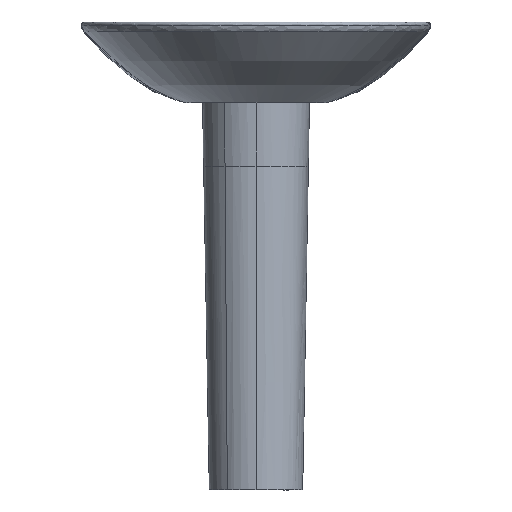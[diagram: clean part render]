
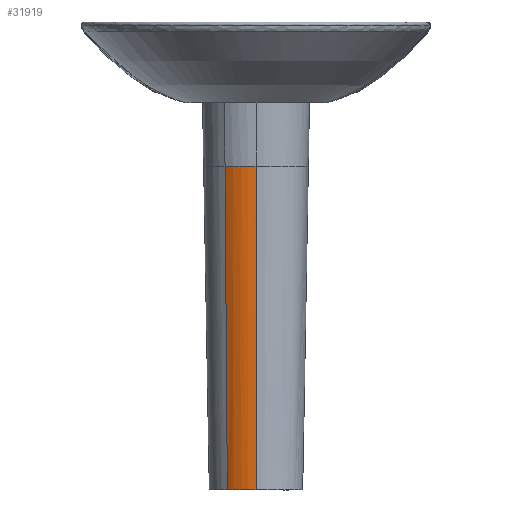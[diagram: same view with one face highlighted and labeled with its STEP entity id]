
A CAD part, top view. The second image highlights one B-rep face of the part: STEP entity #31919.
In plain terms, the highlighted free-form (B-spline) face has degree [3, 3] with [8, 4] control points.
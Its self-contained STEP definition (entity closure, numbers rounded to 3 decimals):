
#1490 = CARTESIAN_POINT ( 'NONE',  ( -53.584, -249.049, 290.49 ) ) ;
#3452 = CARTESIAN_POINT ( 'NONE',  ( -50.991, -622.363, 283.571 ) ) ;
#3789 = CARTESIAN_POINT ( 'NONE',  ( -4.729, -249.023, 305.547 ) ) ;
#4349 = CARTESIAN_POINT ( 'NONE',  ( -29.06, -626.358, 295.278 ) ) ;
#4624 = CARTESIAN_POINT ( 'NONE',  ( -11.131, -815.019, 296.358 ) ) ;
#5877 = CARTESIAN_POINT ( 'NONE',  ( -11.138, -809.02, 296.454 ) ) ;
#7382 = EDGE_CURVE ( 'NONE', #11623, #40997, #16020, .T. ) ;
#8156 = CARTESIAN_POINT ( 'NONE',  ( -41.441, -249.042, 297.657 ) ) ;
#8434 = CARTESIAN_POINT ( 'NONE',  ( -21.171, -249.032, 303.855 ) ) ;
#8712 = CARTESIAN_POINT ( 'NONE',  ( -52.235, -437.706, 286.863 ) ) ;
#9965 = CARTESIAN_POINT ( 'NONE',  ( -49.618, -809.02, 279.856 ) ) ;
#11623 = VERTEX_POINT ( 'NONE', #25043 ) ;
#12825 = CARTESIAN_POINT ( 'NONE',  ( 0., -626.353, 299.756 ) ) ;
#13105 = CARTESIAN_POINT ( 'NONE',  ( -11.6, -437.691, 302.306 ) ) ;
#13155 = EDGE_LOOP ( 'NONE', ( #51365, #32926, #17580, #43553 ) ) ;
#13199 = CARTESIAN_POINT ( 'NONE',  ( -21.171, -249.032, 303.855 ) ) ;
#13376 = CARTESIAN_POINT ( 'NONE',  ( -20.727, -437.694, 300.716 ) ) ;
#13475 = CARTESIAN_POINT ( 'NONE',  ( 0., -249.02, 305.341 ) ) ;
#14340 = CARTESIAN_POINT ( 'NONE',  ( -46.106, -809.02, 282.599 ) ) ;
#16020 = B_SPLINE_CURVE_WITH_KNOTS ( 'NONE', 3,
 ( #28691, #50334, #5877, #23146, #46516, #50039, #14340, #9965 ),
 .UNSPECIFIED., .F., .F.,
 ( 4, 1, 1, 1, 1, 4 ),
 ( 0., 0.013, 0.02, 0.027, 0.04, 0.054 ),
 .UNSPECIFIED. ) ;
#17487 = CARTESIAN_POINT ( 'NONE',  ( -29.692, -437.697, 298.41 ) ) ;
#17580 = ORIENTED_EDGE ( 'NONE', *, *, #55580, .F. ) ;
#18050 = CARTESIAN_POINT ( 'NONE',  ( -50.965, -626.363, 283.499 ) ) ;
#20918 = LINE ( 'NONE', #30547, #47753 ) ;
#21613 = CARTESIAN_POINT ( 'NONE',  ( -40.486, -437.701, 294.203 ) ) ;
#22179 = CARTESIAN_POINT ( 'NONE',  ( -28.383, -815.019, 291.917 ) ) ;
#22655 = VERTEX_POINT ( 'NONE', #1490 ) ;
#22747 = CARTESIAN_POINT ( 'NONE',  ( -4.453, -815.019, 296.943 ) ) ;
#23146 = CARTESIAN_POINT ( 'NONE',  ( -19.862, -809.02, 294.591 ) ) ;
#25043 = CARTESIAN_POINT ( 'NONE',  ( 0., -809.02, 297.052 ) ) ;
#25560 = CARTESIAN_POINT ( 'NONE',  ( 0., -249.02, 305.341 ) ) ;
#25959 = CARTESIAN_POINT ( 'NONE',  ( -49.618, -809.02, 279.856 ) ) ;
#26005 = CARTESIAN_POINT ( 'NONE',  ( -39.579, -626.36, 290.954 ) ) ;
#26852 = CARTESIAN_POINT ( 'NONE',  ( -47.316, -626.362, 286.181 ) ) ;
#27130 = CARTESIAN_POINT ( 'NONE',  ( -4.637, -437.688, 302.675 ) ) ;
#28365 = EDGE_CURVE ( 'NONE', #55768, #11623, #20918, .T. ) ;
#28691 = CARTESIAN_POINT ( 'NONE',  ( 0., -809.02, 297.052 ) ) ;
#30379 = CARTESIAN_POINT ( 'NONE',  ( -48.461, -437.704, 289.509 ) ) ;
#30547 = CARTESIAN_POINT ( 'NONE',  ( 0., -532.02, 301.152 ) ) ;
#30669 = CARTESIAN_POINT ( 'NONE',  ( 0., -437.687, 302.549 ) ) ;
#31049 = CARTESIAN_POINT ( 'NONE',  ( -11.837, -249.027, 305.295 ) ) ;
#31512 = CARTESIAN_POINT ( 'NONE',  ( -11.837, -249.027, 305.295 ) ) ;
#31919 = ADVANCED_FACE ( 'NONE', ( #53455 ), #53965, .F. ) ;
#32926 = ORIENTED_EDGE ( 'NONE', *, *, #28365, .F. ) ;
#33630 = B_SPLINE_CURVE_WITH_KNOTS ( 'NONE', 3,
 ( #48597, #44219, #53555, #53277, #13199, #31049, #44501, #13475 ),
 .UNSPECIFIED., .F., .F.,
 ( 4, 1, 1, 1, 1, 4 ),
 ( 0., 0.25, 0.5, 0.625, 0.75, 1. ),
 .UNSPECIFIED. ) ;
#35063 = CARTESIAN_POINT ( 'NONE',  ( -30.354, -249.036, 301.694 ) ) ;
#35349 = CARTESIAN_POINT ( 'NONE',  ( -46.066, -815.019, 282.481 ) ) ;
#35905 = CARTESIAN_POINT ( 'NONE',  ( -19.847, -815.019, 294.489 ) ) ;
#40582 = CARTESIAN_POINT ( 'NONE',  ( -49.574, -815.019, 279.737 ) ) ;
#40997 = VERTEX_POINT ( 'NONE', #41347 ) ;
#41347 = CARTESIAN_POINT ( 'NONE',  ( -49.618, -809.02, 279.856 ) ) ;
#43211 = CARTESIAN_POINT ( 'NONE',  ( -52.249, -435.706, 286.901 ) ) ;
#43553 = ORIENTED_EDGE ( 'NONE', *, *, #44401, .T. ) ;
#43839 = CARTESIAN_POINT ( 'NONE',  ( 0., -249.02, 305.341 ) ) ;
#44219 = CARTESIAN_POINT ( 'NONE',  ( -49.675, -249.047, 293.083 ) ) ;
#44399 = CARTESIAN_POINT ( 'NONE',  ( -49.675, -249.047, 293.083 ) ) ;
#44401 = EDGE_CURVE ( 'NONE', #22655, #40997, #49109, .T. ) ;
#44501 = CARTESIAN_POINT ( 'NONE',  ( -4.729, -249.023, 305.547 ) ) ;
#44675 = CARTESIAN_POINT ( 'NONE',  ( -53.584, -249.049, 290.49 ) ) ;
#44958 = CARTESIAN_POINT ( 'NONE',  ( -4.547, -626.354, 299.828 ) ) ;
#46516 = CARTESIAN_POINT ( 'NONE',  ( -28.404, -809.02, 292.024 ) ) ;
#47595 = CARTESIAN_POINT ( 'NONE',  ( -53.584, -249.049, 290.49 ) ) ;
#47753 = VECTOR ( 'NONE', #52775, 1000. ) ;
#48504 = CARTESIAN_POINT ( 'NONE',  ( 0., -815.02, 296.963 ) ) ;
#48597 = CARTESIAN_POINT ( 'NONE',  ( -53.584, -249.049, 290.49 ) ) ;
#49109 = B_SPLINE_CURVE_WITH_KNOTS ( 'NONE', 3,
 ( #47595, #43211, #3452, #25959 ),
 .UNSPECIFIED., .F., .F.,
 ( 4, 4 ),
 ( 0., 1. ),
 .UNSPECIFIED. ) ;
#49347 = CARTESIAN_POINT ( 'NONE',  ( -11.371, -626.355, 299.378 ) ) ;
#50039 = CARTESIAN_POINT ( 'NONE',  ( -38.631, -809.02, 287.507 ) ) ;
#50334 = CARTESIAN_POINT ( 'NONE',  ( -4.456, -809.02, 297.035 ) ) ;
#51365 = ORIENTED_EDGE ( 'NONE', *, *, #7382, .F. ) ;
#52775 = DIRECTION ( 'NONE',  ( 0., -1., -0.015 ) ) ;
#53178 = CARTESIAN_POINT ( 'NONE',  ( -20.3, -626.357, 297.683 ) ) ;
#53277 = CARTESIAN_POINT ( 'NONE',  ( -30.354, -249.036, 301.694 ) ) ;
#53455 = FACE_OUTER_BOUND ( 'NONE', #13155, .T. ) ;
#53555 = CARTESIAN_POINT ( 'NONE',  ( -41.441, -249.042, 297.657 ) ) ;
#53965 = B_SPLINE_SURFACE_WITH_KNOTS ( 'NONE', 3, 3, ( 
 ( #44675, #8712, #18050, #40582 ),
 ( #44399, #30379, #26852, #35349 ),
 ( #8156, #21613, #26005, #57293 ),
 ( #35063, #17487, #4349, #22179 ),
 ( #8434, #13376, #53178, #35905 ),
 ( #31512, #13105, #49347, #4624 ),
 ( #3789, #27130, #44958, #22747 ),
 ( #43839, #30669, #12825, #48504 ) ),
 .UNSPECIFIED., .F., .F., .F.,
 ( 4, 1, 1, 1, 1, 4 ),
 ( 4, 4 ),
 ( 0., 0.25, 0.5, 0.625, 0.75, 1. ),
 ( 0., 1.011 ),
 .UNSPECIFIED. ) ;
#55580 = EDGE_CURVE ( 'NONE', #22655, #55768, #33630, .T. ) ;
#55768 = VERTEX_POINT ( 'NONE', #25560 ) ;
#57293 = CARTESIAN_POINT ( 'NONE',  ( -38.599, -815.019, 287.394 ) ) ;
